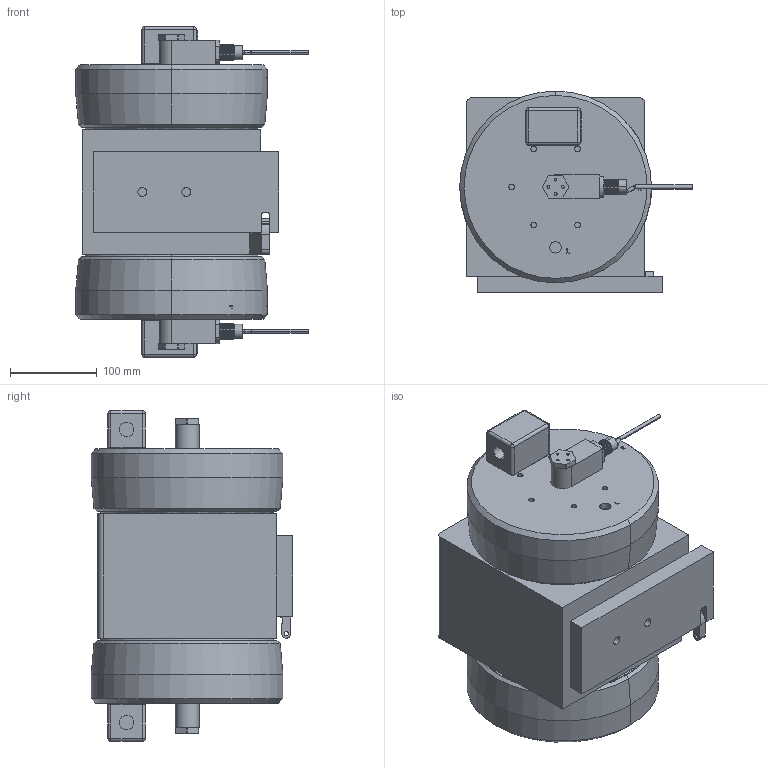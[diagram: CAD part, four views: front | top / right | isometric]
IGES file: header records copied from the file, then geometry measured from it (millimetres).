
Start section: SolidWorks IGES file using analytic representation for surfaces
Global section: file name: \\server\Users\Karen.Bodily\My Documents\PXA140_solid model.IGS; native system: SolidWorks 2012; preprocessor: SolidWorks 2012; author: karen.bodily; date: 130724.111114; units: inch
Bounding box: 268.85 x 233.1 x 381.84 mm (x, y, z)
Volume: 12355541.7 mm3; surface area: 436478.7 mm2
Topology: 1 solids, 1 shells, 1358 faces, 3335 edges, 2138 vertices
Faces by surface type: plane 822, revolution 441, bspline 95
